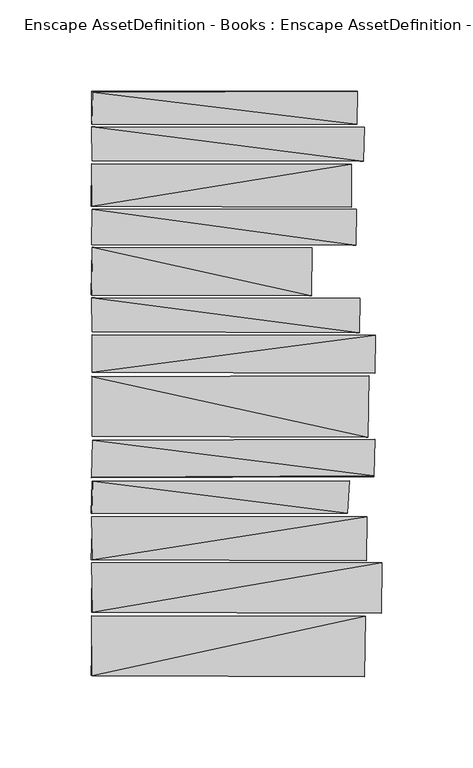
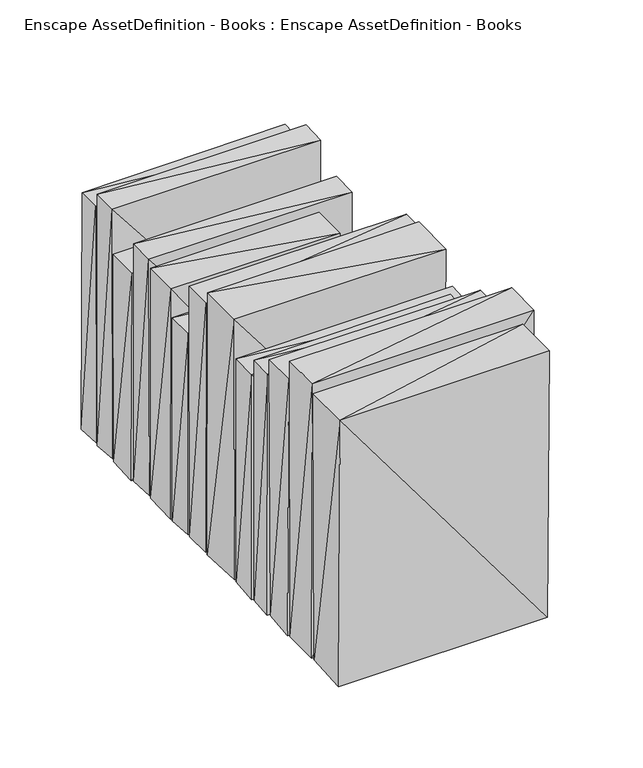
"""IFC4 building model written with IfcOpenShell, lengths in millimetres: geographic element geometry, Enscape AssetDefinition - Books : Enscape AssetDefinition - Books."""

from ifc_helpers import new_model, si_unit, origin, place, context, project, spatial, faceted_brep, source, transform, mapped, element, save


def enscape_assetdefinition_books_enscape_assetdefinition_books_90869a48(model_context):
    return source(origin(), model_context, "Body", "Brep", [
        faceted_brep([(0.8481662, 28.5916049, 153.4960717), (147.3328769, 28.6036041, 0.3770739), (147.8249729, 28.1895231, 153.7721306), (0.8361639, 28.5916049, 0.6931359), (147.004813, 46.6791466, 0.3200627), (148.0170041, 47.1462384, 153.8231522), (0.4740929, 47.4433005, 153.8061351), (0.4320847, 47.1892469, 0.3580702)], [[[0, 1, 2]], [[3, 1, 0]], [[3, 4, 1]], [[5, 1, 4]], [[2, 1, 5]], [[6, 2, 5]], [[0, 2, 6]], [[7, 0, 6]], [[3, 0, 7]], [[7, 4, 3]], [[4, 6, 5]], [[7, 6, 4]]]),
        faceted_brep([(0.1870367, 97.6861417, 0.1550304), (143.1920528, 97.1170291, 157.4838609), (0.9221808, 97.6861417, 157.057777), (142.7309662, 97.7681652, 0.3690723), (143.4271038, 120.7396612, 157.4098468), (0.4960973, 120.9206954, 157.4108452), (0.6621298, 120.3955933, 0.5491076), (142.6019371, 120.2385575, 0.2650519)], [[[0, 1, 2]], [[3, 1, 0]], [[1, 3, 4]], [[4, 2, 1]], [[5, 2, 4]], [[2, 6, 0]], [[5, 6, 2]], [[0, 6, 3]], [[4, 3, 7]], [[3, 6, 7]], [[7, 5, 4]], [[6, 5, 7]]]),
        faceted_brep([(0.5211021, -51.2380414, 170.4194099), (155.5544883, -50.9649888, 0.5391057), (155.5714905, -50.4278839, 170.1473445), (0.3770739, -51.5751056, 0.3130614), (156.3126296, -30.4969754, 170.4023927), (155.575484, -30.9850723, 0.5811139), (1.1922336, -30.8620483, 169.8632836), (1.2522455, -30.8620483, 1.0382035)], [[[0, 1, 2]], [[3, 1, 0]], [[1, 4, 2]], [[5, 4, 1]], [[3, 5, 1]], [[6, 2, 4]], [[0, 2, 6]], [[7, 0, 6]], [[3, 0, 7]], [[7, 5, 3]], [[5, 6, 4]], [[7, 6, 5]]]),
        faceted_brep([(159.8223299, -125.9756982, 208.8479251), (0.66313, -125.3655702, 0.5501078), (159.1491997, -125.3285706, 0.4970974), (1.219239, -125.3655702, 208.3898336), (159.1881961, -98.7183452, 0.8321631), (0.71414, -98.5943228, 0.5911159), (160.1363868, -98.1222317, 208.833918), (0.5651108, -98.0542153, 208.9309394)], [[[0, 1, 2]], [[3, 1, 0]], [[1, 4, 2]], [[5, 4, 1]], [[3, 5, 1]], [[2, 6, 0]], [[4, 6, 2]], [[6, 3, 0]], [[7, 3, 6]], [[7, 5, 3]], [[6, 5, 7]], [[4, 5, 6]]]),
        faceted_brep([(0.7531476, 26.9922893, 189.9392307), (155.638501, 26.2301397, 0.6501274), (0.7481466, 26.3261609, 0.6201215), (156.4836651, 26.7382413, 190.0612414), (155.6034982, 6.537281, 0.6171209), (0.8421651, 6.5202778, 0.6981368), (0.9171798, 6.3432427, 189.8041964), (156.2216133, 5.9871729, 190.1142597)], [[[0, 1, 2]], [[3, 1, 0]], [[3, 4, 1]], [[5, 1, 4]], [[2, 1, 5]], [[6, 2, 5]], [[0, 2, 6]], [[0, 6, 3]], [[7, 4, 3]], [[3, 6, 7]], [[6, 4, 7]], [[5, 4, 6]]]),
        faceted_brep([(0.8641694, -160.1963937, 201.975584), (150.0144005, -159.8213166, 0.4370856), (150.5685002, -160.8605236, 202.4416775), (0.1660325, -159.9843502, 0.1660325), (149.6473253, -128.354162, 0.352069), (150.9645879, -127.5860071, 202.4116665), (0.5641106, -127.3169518, 202.2756487), (1.0041968, -127.9190779, 1.0041968)], [[[0, 1, 2]], [[3, 1, 0]], [[3, 4, 1]], [[5, 1, 4]], [[2, 1, 5]], [[5, 0, 2]], [[6, 0, 5]], [[7, 0, 6]], [[3, 0, 7]], [[7, 4, 3]], [[6, 4, 7]], [[5, 4, 6]]]),
        faceted_brep([(0.8301627, -28.6856219, 198.920995), (151.6327262, -28.4005664, 0.342067), (152.3988694, -29.1587133, 199.2000341), (1.2652479, -28.4285713, 1.0492057), (150.937587, 4.062796, 0.5541086), (152.8299451, 4.5568929, 199.145034), (0.7521474, 3.9567752, 198.9859939), (0.6481271, 4.2758379, 0.5371053)], [[[0, 1, 2]], [[3, 1, 0]], [[3, 4, 1]], [[5, 1, 4]], [[2, 1, 5]], [[6, 2, 5]], [[0, 2, 6]], [[7, 0, 6]], [[3, 0, 7]], [[7, 4, 3]], [[6, 4, 7]], [[5, 4, 6]]]),
        faceted_brep([(0.8731711, 122.4850118, 190.4593259), (149.5643109, 122.7860674, 0.347068), (149.9303877, 122.1879497, 190.6803697), (1.1642282, 122.6880476, 0.9651892), (149.3222713, 140.4815316, 0.5371053), (150.4084766, 140.9816295, 190.8484101), (0.653128, 141.1156505, 190.6423569), (0.505099, 140.5365467, 0.4190821)], [[[0, 1, 2]], [[3, 1, 0]], [[1, 3, 4]], [[5, 1, 4]], [[2, 1, 5]], [[6, 2, 5]], [[0, 2, 6]], [[0, 7, 3]], [[6, 7, 0]], [[4, 3, 7]], [[6, 4, 7]], [[5, 4, 6]]]),
        faceted_brep([(146.6507465, 160.7134938, 180.6314141), (0.5361051, 160.8405262, 0.4450872), (1.076211, 160.2974087, 180.0542921), (145.3214735, 160.3634208, 0.4230829), (1.0682093, 142.982021, 0.8851735), (0.4960973, 142.7349746, 180.5353761), (146.2106556, 142.5069273, 180.4283708), (145.8405852, 142.9940313, 0.3360659)], [[[0, 1, 2]], [[3, 1, 0]], [[1, 3, 4]], [[5, 1, 4]], [[2, 1, 5]], [[2, 6, 0]], [[5, 6, 2]], [[0, 6, 3]], [[4, 3, 7]], [[3, 6, 7]], [[4, 7, 5]], [[5, 7, 6]]]),
        faceted_brep([(0.4990978, 76.5260011, 180.6954145), (145.3814954, 76.7830461, 0.342067), (145.9105909, 76.2469396, 180.6894094), (1.0702098, 76.7700449, 0.8871738), (144.8694021, 95.5147147, 0.5201019), (146.1646408, 95.8637893, 180.8014214), (0.8131593, 96.0518271, 180.4353744), (0.6501274, 95.6657529, 0.5381055)], [[[0, 1, 2]], [[3, 1, 0]], [[1, 4, 2]], [[3, 4, 1]], [[2, 4, 5]], [[6, 2, 5]], [[0, 2, 6]], [[0, 7, 3]], [[6, 7, 0]], [[7, 4, 3]], [[6, 4, 7]], [[5, 4, 6]]]),
        faceted_brep([(0.4860953, -71.2439641, 182.9938591), (141.3587034, -70.9659085, 0.5131006), (141.182676, -70.9449053, 182.7158034), (0.2170425, -70.9809139, 0.1800353), (142.1518624, -53.025391, 183.089897), (141.1956698, -53.4224696, 0.3370661), (0.8791723, -53.3754639, 0.7281427), (1.1062168, -53.3754639, 182.479769)], [[[0, 1, 2]], [[3, 1, 0]], [[1, 4, 2]], [[5, 4, 1]], [[1, 6, 5]], [[3, 6, 1]], [[2, 7, 0]], [[4, 7, 2]], [[6, 0, 7]], [[3, 0, 6]], [[7, 5, 6]], [[4, 5, 7]]]),
        faceted_brep([(0.5161011, -72.9232952, 195.0122267), (150.937587, -73.610425, 0.6641301), (1.1542263, -73.4703988, 0.9561874), (151.7947465, -73.0453134, 194.9262023), (150.8905739, -96.5429172, 0.6231221), (0.2310453, -96.5609178, 0.1910374), (1.1272209, -96.5609178, 194.5051104), (151.5197009, -97.069025, 194.9221939)], [[[0, 1, 2]], [[3, 1, 0]], [[3, 4, 1]], [[4, 2, 1]], [[5, 2, 4]], [[6, 2, 5]], [[0, 2, 6]], [[0, 6, 3]], [[7, 4, 3]], [[3, 6, 7]], [[6, 4, 7]], [[5, 4, 6]]]),
        faceted_brep([(0.4870955, 48.741553, 174.9222875), (120.8486855, 48.9905998, 0.5601098), (121.4137971, 48.4865047, 174.9012768), (0.2070406, 48.9745997, 0.1720337), (0.6961364, 74.4285882, 0.5771131), (120.8906993, 74.3015632, 0.5981172), (121.6368377, 74.805662, 174.8912781), (0.7781525, 75.014703, 174.680233)], [[[0, 1, 2]], [[3, 1, 0]], [[1, 4, 5]], [[3, 4, 1]], [[6, 1, 5]], [[2, 1, 6]], [[7, 2, 6]], [[0, 2, 7]], [[0, 4, 3]], [[7, 4, 0]], [[7, 5, 4]], [[6, 5, 7]]]),
    ])


if __name__ == "__main__":
    model = new_model("IFC4")
    model_context = context("Model", 3, world=origin())
    ifc_project = project(units=[si_unit("LENGTHUNIT", "METRE", prefix="MILLI")], contexts=[model_context])
    site = spatial("IfcSite", under=ifc_project)
    building = spatial("IfcBuilding", under=site)
    placement = place(None, origin())
    enscape_assetdefinition_books_enscape_assetdefinition_books_shape = enscape_assetdefinition_books_enscape_assetdefinition_books_90869a48(model_context)
    element("IfcGeographicElement", 1, ObjectType="Enscape AssetDefinition - Books : Enscape AssetDefinition - Books", at=placement, inside=building, context=model_context, shape_type="MappedRepresentation", body=[
        mapped(enscape_assetdefinition_books_enscape_assetdefinition_books_shape, transform((0.0, 0.0, 0.0), x_axis=(1.0, 0.0, 0.0), y_axis=(0.0, 1.0, 0.0), z_axis=(0.0, 0.0, 1.0))),
    ])
    save(model, "model.ifc")
